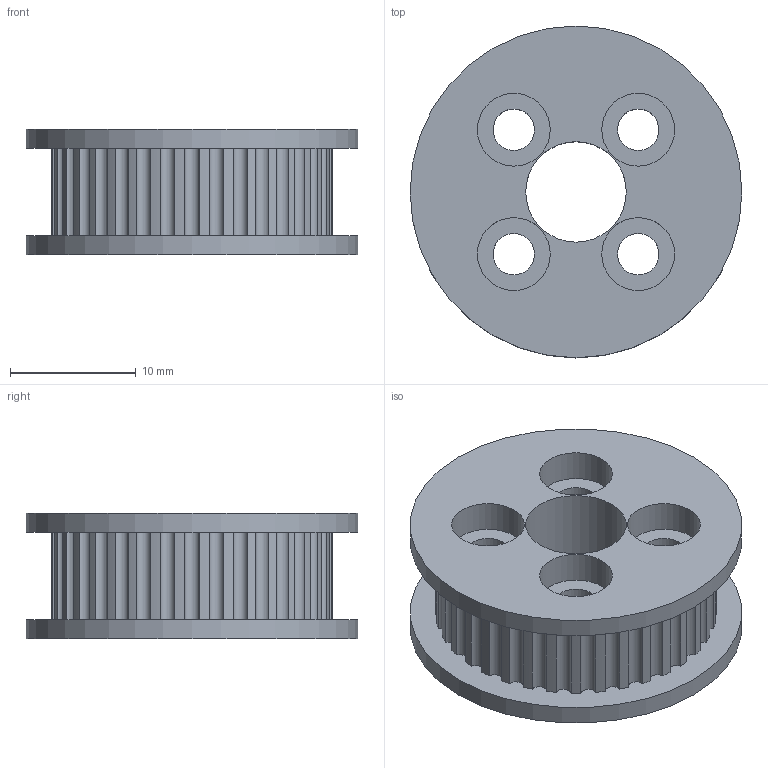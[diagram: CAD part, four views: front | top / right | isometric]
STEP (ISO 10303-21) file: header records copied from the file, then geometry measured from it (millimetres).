
FILE_DESCRIPTION(('Open CASCADE Model'),'2;1');
FILE_NAME('Open CASCADE Shape Model','2026-10-02T23:27:47',('Author'),( 'Open CASCADE'),'Open CASCADE STEP processor 7.9','Open CASCADE 7.9' ,'Unknown');
FILE_SCHEMA(('AUTOMOTIVE_DESIGN { 1 0 10303 214 1 1 1 1 }'));
Length unit declared in the file: millimetre
Products named in the file (1): Open CASCADE STEP translator 7.9 12
Bounding box: 26.41 x 26.41 x 10 mm (x, y, z)
Volume: 3270.3 mm3; surface area: 2871 mm2
Topology: 1 solids, 1 shells, 91 faces, 249 edges, 166 vertices
Faces by surface type: cylinder 83, plane 8
Full cylindrical faces by diameter (mm): 3.3 x4, 5.8 x4, 8 x1, 26.41 x2
Entity records: 6325 total; most frequent: CARTESIAN_POINT 1575, DIRECTION 882, ORIENTED_EDGE 498, PCURVE 498, DEFINITIONAL_REPRESENTATION 498, LINE 271, VECTOR 271, CIRCLE 261
